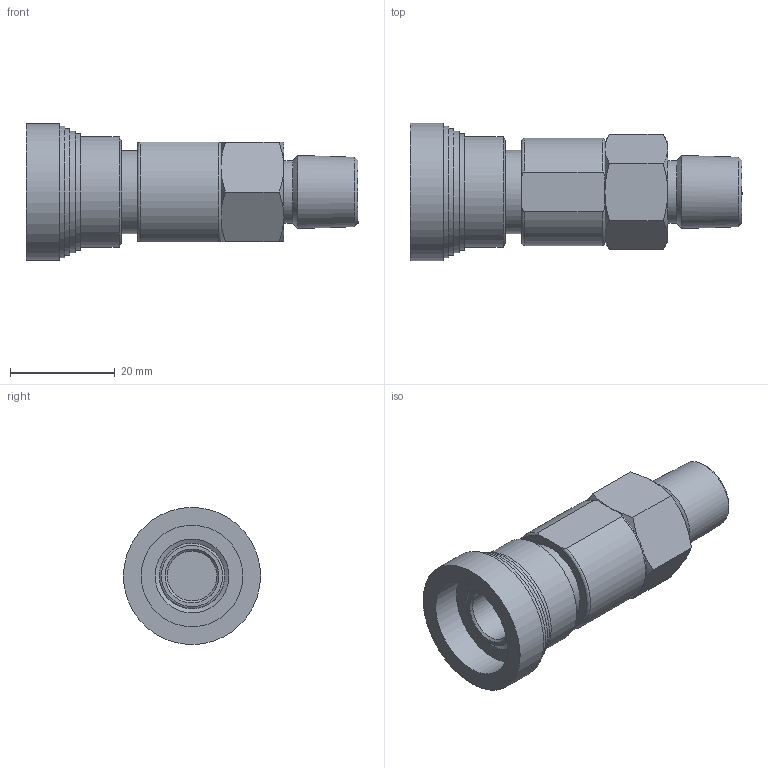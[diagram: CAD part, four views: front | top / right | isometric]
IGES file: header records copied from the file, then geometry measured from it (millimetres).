
Global section: file name: SQC2B-M4N; native system: Autodesk Inventor 2016; preprocessor: unknown; author: 이승민,,11,0; organization: 20170206.115124; date: 20170209.081249; units: millimetre
Bounding box: 63.45 x 26.2 x 26.17 mm (x, y, z)
Volume: 16519.5 mm3; surface area: 6383.1 mm2
Topology: 1 solids, 1 shells, 65 faces, 162 edges, 112 vertices
Faces by surface type: bspline 65
